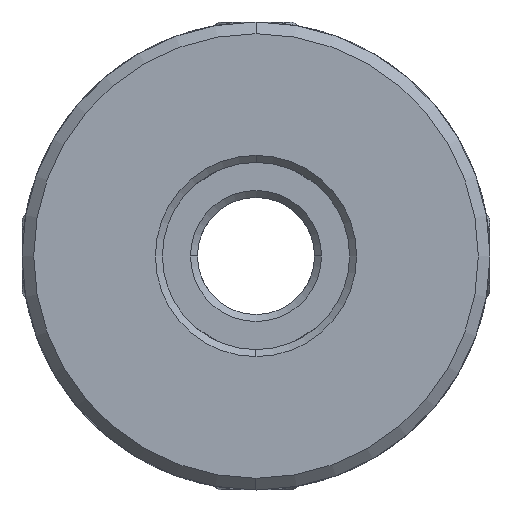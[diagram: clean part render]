
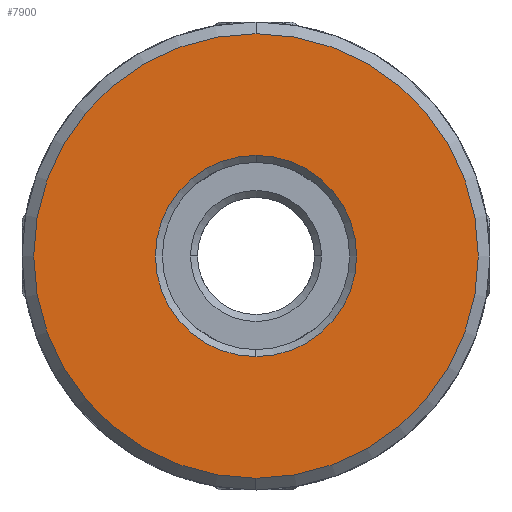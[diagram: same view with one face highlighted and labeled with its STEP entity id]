
A CAD part, front view. The second image highlights one B-rep face of the part: STEP entity #7900.
In plain terms, the highlighted planar face has unit normal (0, -1, 0).
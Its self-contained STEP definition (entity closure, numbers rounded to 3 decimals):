
#224 = DIRECTION ( 'NONE',  ( 0., 0., -1. ) ) ;
#297 = VERTEX_POINT ( 'NONE', #6547 ) ;
#708 = CIRCLE ( 'NONE', #4331, 9.5 ) ;
#784 = CARTESIAN_POINT ( 'NONE',  ( 0., -23., 0. ) ) ;
#831 = EDGE_CURVE ( 'NONE', #2790, #7261, #6457, .T. ) ;
#1003 = ORIENTED_EDGE ( 'NONE', *, *, #831, .T. ) ;
#1471 = ORIENTED_EDGE ( 'NONE', *, *, #9315, .T. ) ;
#1679 = DIRECTION ( 'NONE',  ( 0., 0., -1. ) ) ;
#2193 = AXIS2_PLACEMENT_3D ( 'NONE', #5614, #4726, #224 ) ;
#2303 = PLANE ( 'NONE',  #4484 ) ;
#2483 = DIRECTION ( 'NONE',  ( 0., 0., -1. ) ) ;
#2742 = CARTESIAN_POINT ( 'NONE',  ( 0., -23., -4.3 ) ) ;
#2790 = VERTEX_POINT ( 'NONE', #4202 ) ;
#3054 = CARTESIAN_POINT ( 'NONE',  ( 0., -23., 0. ) ) ;
#3105 = CIRCLE ( 'NONE', #2193, 4.3 ) ;
#3550 = DIRECTION ( 'NONE',  ( 0., -1., 0. ) ) ;
#4202 = CARTESIAN_POINT ( 'NONE',  ( 0., -23., 4.3 ) ) ;
#4331 = AXIS2_PLACEMENT_3D ( 'NONE', #3054, #7654, #7392 ) ;
#4484 = AXIS2_PLACEMENT_3D ( 'NONE', #9133, #9169, #2483 ) ;
#4613 = EDGE_CURVE ( 'NONE', #7559, #297, #708, .T. ) ;
#4726 = DIRECTION ( 'NONE',  ( 0., 1., 0. ) ) ;
#5113 = ORIENTED_EDGE ( 'NONE', *, *, #9202, .T. ) ;
#5150 = ORIENTED_EDGE ( 'NONE', *, *, #4613, .T. ) ;
#5549 = EDGE_LOOP ( 'NONE', ( #5150, #1471 ) ) ;
#5614 = CARTESIAN_POINT ( 'NONE',  ( 0., -23., 0. ) ) ;
#5969 = CARTESIAN_POINT ( 'NONE',  ( 0., -23., 0. ) ) ;
#5972 = CIRCLE ( 'NONE', #8990, 9.5 ) ;
#6457 = CIRCLE ( 'NONE', #7111, 4.3 ) ;
#6547 = CARTESIAN_POINT ( 'NONE',  ( 0., -23., 9.5 ) ) ;
#6941 = FACE_OUTER_BOUND ( 'NONE', #5549, .T. ) ;
#7111 = AXIS2_PLACEMENT_3D ( 'NONE', #784, #9036, #7457 ) ;
#7261 = VERTEX_POINT ( 'NONE', #2742 ) ;
#7392 = DIRECTION ( 'NONE',  ( 0., 0., -1. ) ) ;
#7457 = DIRECTION ( 'NONE',  ( 0., 0., -1. ) ) ;
#7528 = FACE_BOUND ( 'NONE', #8164, .T. ) ;
#7559 = VERTEX_POINT ( 'NONE', #8041 ) ;
#7654 = DIRECTION ( 'NONE',  ( 0., -1., 0. ) ) ;
#7900 = ADVANCED_FACE ( 'NONE', ( #7528, #6941 ), #2303, .F. ) ;
#8041 = CARTESIAN_POINT ( 'NONE',  ( 0., -23., -9.5 ) ) ;
#8164 = EDGE_LOOP ( 'NONE', ( #1003, #5113 ) ) ;
#8990 = AXIS2_PLACEMENT_3D ( 'NONE', #5969, #3550, #1679 ) ;
#9036 = DIRECTION ( 'NONE',  ( 0., 1., 0. ) ) ;
#9133 = CARTESIAN_POINT ( 'NONE',  ( 50., -23., -15.365 ) ) ;
#9169 = DIRECTION ( 'NONE',  ( 0., 1., 0. ) ) ;
#9202 = EDGE_CURVE ( 'NONE', #7261, #2790, #3105, .T. ) ;
#9315 = EDGE_CURVE ( 'NONE', #297, #7559, #5972, .T. ) ;
